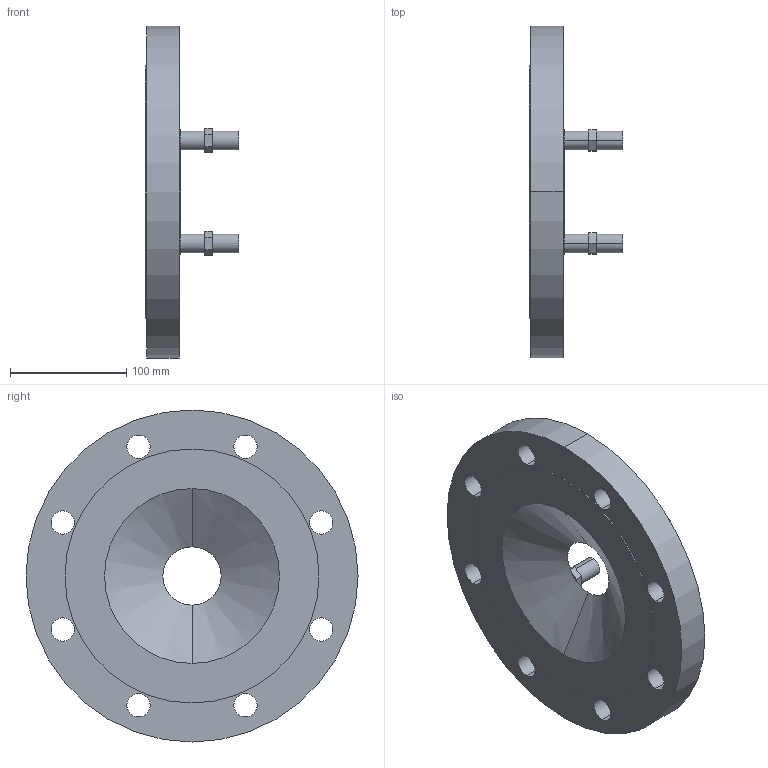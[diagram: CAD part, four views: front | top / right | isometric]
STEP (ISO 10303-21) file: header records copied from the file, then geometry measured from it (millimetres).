
FILE_DESCRIPTION(('STEP AP214'),'1');
FILE_NAME('S:/EK/USER/CAT6/3DHomepage_27-04-2012/VDI-Rohrsysteme_und_Stahlrohre/8110_(0802)/8110_PN16_DN150_DN50.STP','2013-01-24T15:13:13',(' '),(' '),'Spatial InterOp 3D',' ',' ');
FILE_SCHEMA(('automotive_design'));
Length unit declared in the file: millimetre
Products named in the file (10): 3D-Objekt
Bounding box: 80 x 285 x 285 mm (x, y, z)
Volume: 1554317.8 mm3; surface area: 215265.3 mm2
Topology: 10 solids, 10 shells, 79 faces, 174 edges, 116 vertices
Faces by surface type: plane 45, cylinder 32, cone 2
Entity records: 3100 total; most frequent: DIRECTION 420, CARTESIAN_POINT 379, ORIENTED_EDGE 348, EDGE_CURVE 174, AXIS2_PLACEMENT_3D 157, VERTEX_POINT 116, LINE 106, VECTOR 106
